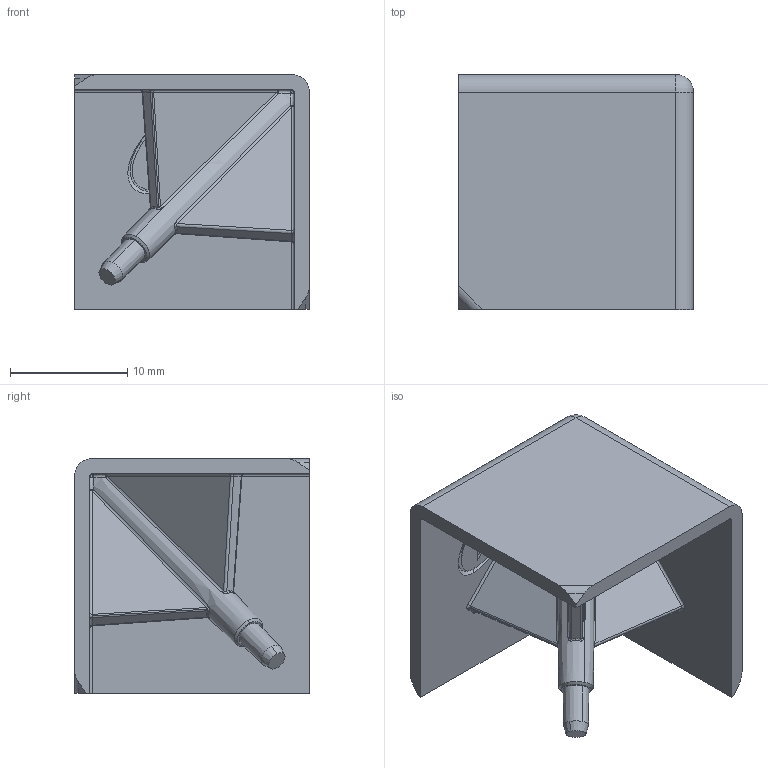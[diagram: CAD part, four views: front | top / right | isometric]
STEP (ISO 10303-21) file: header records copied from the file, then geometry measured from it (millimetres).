
FILE_DESCRIPTION (( 'STEP AP203' ), '1' );
FILE_NAME ('093WEA202AS01.step', '2016-01-04T13:38:51', ( '' ), ( '' ), 'SwSTEP 2.0', 'SolidWorks 2015', '' );
FILE_SCHEMA (( 'CONFIG_CONTROL_DESIGN' ));
Length unit declared in the file: millimetre
Products named in the file (1): 093WEA202AS01
Bounding box: 20 x 20 x 20 mm (x, y, z)
Volume: 1938.1 mm3; surface area: 2941.9 mm2
Topology: 1 solids, 1 shells, 208 faces, 549 edges, 344 vertices
Faces by surface type: plane 117, bspline 38, cylinder 31, sphere 14, cone 8
Entity records: 6869 total; most frequent: CARTESIAN_POINT 2031, ORIENTED_EDGE 1084, DIRECTION 880, EDGE_CURVE 542, VECTOR 350, LINE 350, VERTEX_POINT 343, AXIS2_PLACEMENT_3D 265
